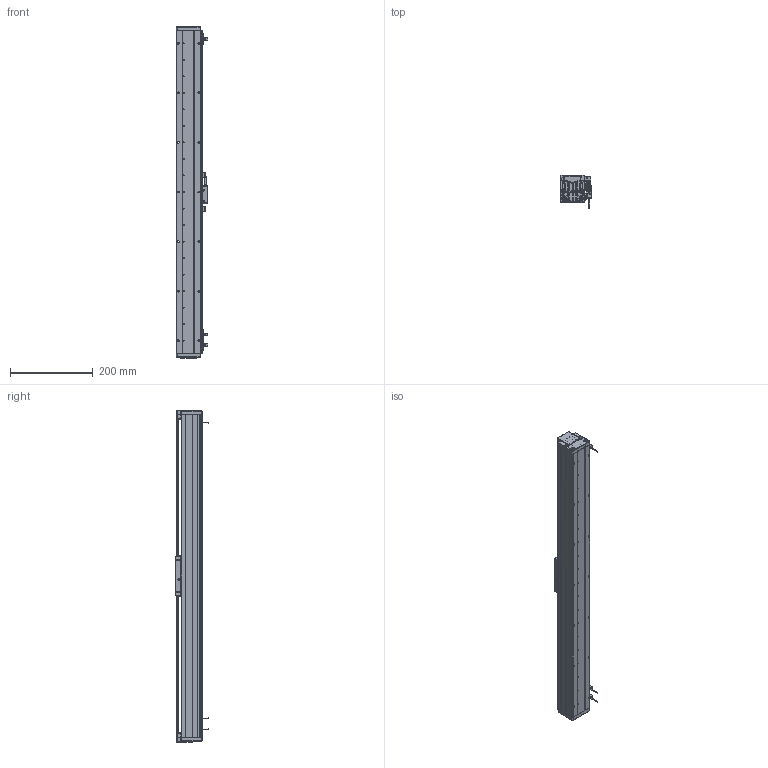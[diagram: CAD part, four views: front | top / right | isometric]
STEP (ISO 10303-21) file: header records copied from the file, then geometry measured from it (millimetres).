
FILE_DESCRIPTION (( 'STEP AP203' ), '1' );
FILE_NAME ('DA-A60-B1-T640-C010-0.2 眻盄萇儂.STEP', '2025-08-13T01:58:53', ( '' ), ( '' ), 'SwSTEP 2.0', 'SolidWorks 2019', '' );
FILE_SCHEMA (( 'CONFIG_CONTROL_DESIGN' ));
Length unit declared in the file: millimetre
Products named in the file (21): DA60-T-002-00  裔啣; 复件 纯铜油杯 6x6mm^AU60-V 滚珠滑台; DA60-YT-B1-HT-B-01 珨极趙賑雄怢啣; 复件 DA60-GT-T-00 底座钢轨^AU60-L 底座导轨; 葩璃 DMT-010 1米m 0.2M^DA-A60-B1-T-C010-0.2-N 眻盄萇儂; 葩璃 PM-T45^DA-A60-B1-T-C010-0.2-N 眻盄萇儂; 复件 DA60-B1-GT-00 滑块钢轨^DA60-YT-B1-HT-B-01 一体化滑动台板; DA60-B1-HT-B-03 賑雄怢啣; 复件 六角薄螺母 M3^DA-A60-B1-T-C010-0.2-N 直线电机(GB_FASTENER_NUT_STNAB M3-C); 复件 XD-U-02  磁栅尺^DA-A60-B1-T-C010-0.2-N 直线电机; 复件 DA-A60-GYP-DMT-00 光电感应片^DA-A60-B1-T-C010-0.2-N 直线电机(默认); DA-A60-B1-T640-C010-0.2 眻盄萇儂; AU60-L 菁釱絳寢; 复件 BAKM01-W030-C1-TP-0.2 直线电机动子^DA-A60-B1-T-C010-0.2-N 直线电机; 葩璃 DA60-HK-DP-01 結え^AU60-V 幗紩賑怢; 复件 DA60-DMT-DTJ-00 读数头支架^DA-A60-B1-T-C010-0.2-N 直线电机; IU-AU60-L-00 菁釱(780); 葩璃 AKM01-W030-TRL^DA-A60-B1-T-C010-0.2-N 眻盄萇儂; AU60-V 幗紩賑怢; 复件 DA60-XJ-00 橡胶挡块^DA-A60-B1-T-C010-0.2-N 直线电机; 复件 DA60-DG-H-N-00 端盖^DA-A60-B1-T-C010-0.2-N 直线电机
Assembly tree (33 placements, depth 4):
  DA-A60-B1-T640-C010-0.2 眻盄萇儂
    AU60-L 菁釱絳寢
      IU-AU60-L-00 菁釱(780)
      复件 DA60-GT-T-00 底座钢轨^AU60-L 底座导轨  x2
    AU60-V 幗紩賑怢
      DA60-YT-B1-HT-B-01 珨极趙賑雄怢啣
        DA60-B1-HT-B-03 賑雄怢啣
        复件 DA60-B1-GT-00 滑块钢轨^DA60-YT-B1-HT-B-01 一体化滑动台板  x2
      葩璃 DA60-HK-DP-01 結え^AU60-V 幗紩賑怢  x2
      复件 纯铜油杯 6x6mm^AU60-V 滚珠滑台
    复件 DA-A60-GYP-DMT-00 光电感应片^DA-A60-B1-T-C010-0.2-N 直线电机(默认)  x2
    复件 DA60-DMT-DTJ-00 读数头支架^DA-A60-B1-T-C010-0.2-N 直线电机
    葩璃 DMT-010 1米m 0.2M^DA-A60-B1-T-C010-0.2-N 眻盄萇儂
    复件 BAKM01-W030-C1-TP-0.2 直线电机动子^DA-A60-B1-T-C010-0.2-N 直线电机
    复件 DA60-XJ-00 橡胶挡块^DA-A60-B1-T-C010-0.2-N 直线电机  x2
    复件 DA60-DG-H-N-00 端盖^DA-A60-B1-T-C010-0.2-N 直线电机  x2
    DA60-T-002-00  裔啣
    葩璃 AKM01-W030-TRL^DA-A60-B1-T-C010-0.2-N 眻盄萇儂
    葩璃 PM-T45^DA-A60-B1-T-C010-0.2-N 眻盄萇儂  x3
    复件 XD-U-02  磁栅尺^DA-A60-B1-T-C010-0.2-N 直线电机
    复件 六角薄螺母 M3^DA-A60-B1-T-C010-0.2-N 直线电机(GB_FASTENER_NUT_STNAB M3-C)  x6
Bounding box: 76.95 x 80 x 804 mm (x, y, z)
Volume: 1659404.1 mm3; surface area: 598743.1 mm2
Topology: 35 solids, 37 shells, 2924 faces, 7524 edges, 4563 vertices
Faces by surface type: cylinder 1121, plane 969, bspline 577, cone 248, torus 8, sphere 1
Entity records: 73491 total; most frequent: CARTESIAN_POINT 23657, ORIENTED_EDGE 10304, DIRECTION 9383, EDGE_CURVE 5152, AXIS2_PLACEMENT_3D 3379, VERTEX_POINT 3234, VECTOR 2625, LINE 2625
